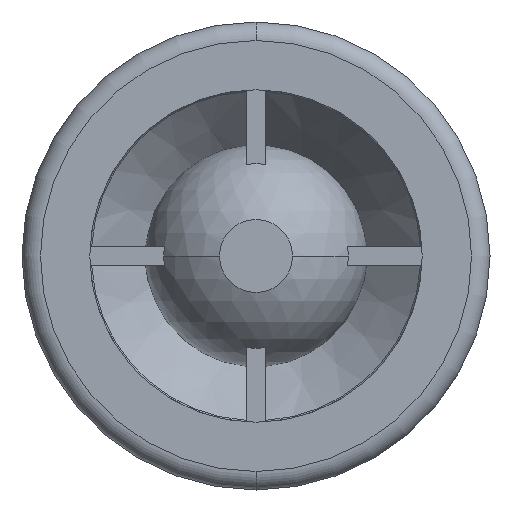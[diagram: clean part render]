
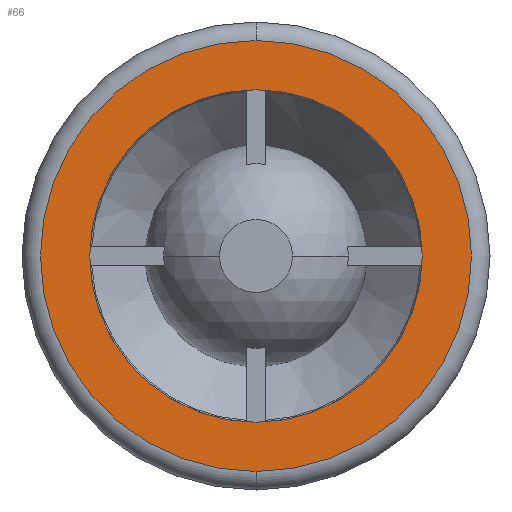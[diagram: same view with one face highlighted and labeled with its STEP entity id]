
A CAD part, front view. The second image highlights one B-rep face of the part: STEP entity #66.
In plain terms, the highlighted planar face has unit normal (0, -1, 0).
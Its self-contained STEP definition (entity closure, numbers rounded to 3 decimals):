
#65 = EDGE_LOOP ( 'NONE', ( #89, #88 ) ) ;
#66 = ADVANCED_FACE ( 'NONE', ( #754, #753 ), #752, .F. ) ;
#85 = ORIENTED_EDGE ( 'NONE', *, *, #441, .F. ) ;
#86 = ORIENTED_EDGE ( 'NONE', *, *, #632, .F. ) ;
#87 = EDGE_LOOP ( 'NONE', ( #86, #85 ) ) ;
#88 = ORIENTED_EDGE ( 'NONE', *, *, #442, .T. ) ;
#89 = ORIENTED_EDGE ( 'NONE', *, *, #90, .T. ) ;
#90 = EDGE_CURVE ( 'NONE', #472, #634, #785, .T. ) ;
#425 = VERTEX_POINT ( 'NONE', #1348 ) ;
#441 = EDGE_CURVE ( 'NONE', #2669, #425, #1380, .T. ) ;
#442 = EDGE_CURVE ( 'NONE', #634, #472, #1375, .T. ) ;
#472 = VERTEX_POINT ( 'NONE', #1436 ) ;
#632 = EDGE_CURVE ( 'NONE', #425, #2669, #1731, .T. ) ;
#634 = VERTEX_POINT ( 'NONE', #1782 ) ;
#747 = DIRECTION ( 'NONE',  ( 0., 0., 1. ) ) ;
#748 = DIRECTION ( 'NONE',  ( 0., 1., 0. ) ) ;
#749 = CARTESIAN_POINT ( 'NONE',  ( -13.5, 0., 0. ) ) ;
#751 = AXIS2_PLACEMENT_3D ( 'NONE', #749, #748, #747 ) ;
#752 = PLANE ( 'NONE',  #751 ) ;
#753 = FACE_BOUND ( 'NONE', #87, .T. ) ;
#754 = FACE_OUTER_BOUND ( 'NONE', #65, .T. ) ;
#778 = DIRECTION ( 'NONE',  ( 0., 0., 1. ) ) ;
#779 = DIRECTION ( 'NONE',  ( 0., -1., 0. ) ) ;
#780 = CARTESIAN_POINT ( 'NONE',  ( 0., 0., 0. ) ) ;
#781 = AXIS2_PLACEMENT_3D ( 'NONE', #780, #779, #778 ) ;
#785 = CIRCLE ( 'NONE', #781, 17.5 ) ;
#1348 = CARTESIAN_POINT ( 'NONE',  ( 0., 0., -13.5 ) ) ;
#1371 = DIRECTION ( 'NONE',  ( 0., 0., 1. ) ) ;
#1372 = DIRECTION ( 'NONE',  ( 0., -1., 0. ) ) ;
#1373 = CARTESIAN_POINT ( 'NONE',  ( 0., 0., 0. ) ) ;
#1374 = AXIS2_PLACEMENT_3D ( 'NONE', #1373, #1372, #1371 ) ;
#1375 = CIRCLE ( 'NONE', #1374, 17.5 ) ;
#1376 = DIRECTION ( 'NONE',  ( 0., 0., -1. ) ) ;
#1377 = DIRECTION ( 'NONE',  ( 0., -1., 0. ) ) ;
#1378 = CARTESIAN_POINT ( 'NONE',  ( 0., 0., 0. ) ) ;
#1379 = AXIS2_PLACEMENT_3D ( 'NONE', #1378, #1377, #1376 ) ;
#1380 = CIRCLE ( 'NONE', #1379, 13.5 ) ;
#1436 = CARTESIAN_POINT ( 'NONE',  ( 0., 0., 17.5 ) ) ;
#1728 = DIRECTION ( 'NONE',  ( 0., 0., -1. ) ) ;
#1729 = DIRECTION ( 'NONE',  ( 0., -1., 0. ) ) ;
#1730 = AXIS2_PLACEMENT_3D ( 'NONE', #1738, #1729, #1728 ) ;
#1731 = CIRCLE ( 'NONE', #1730, 13.5 ) ;
#1738 = CARTESIAN_POINT ( 'NONE',  ( 0., 0., 0. ) ) ;
#1782 = CARTESIAN_POINT ( 'NONE',  ( 0., 0., -17.5 ) ) ;
#1978 = CARTESIAN_POINT ( 'NONE',  ( 0., 0., 13.5 ) ) ;
#2669 = VERTEX_POINT ( 'NONE', #1978 ) ;
